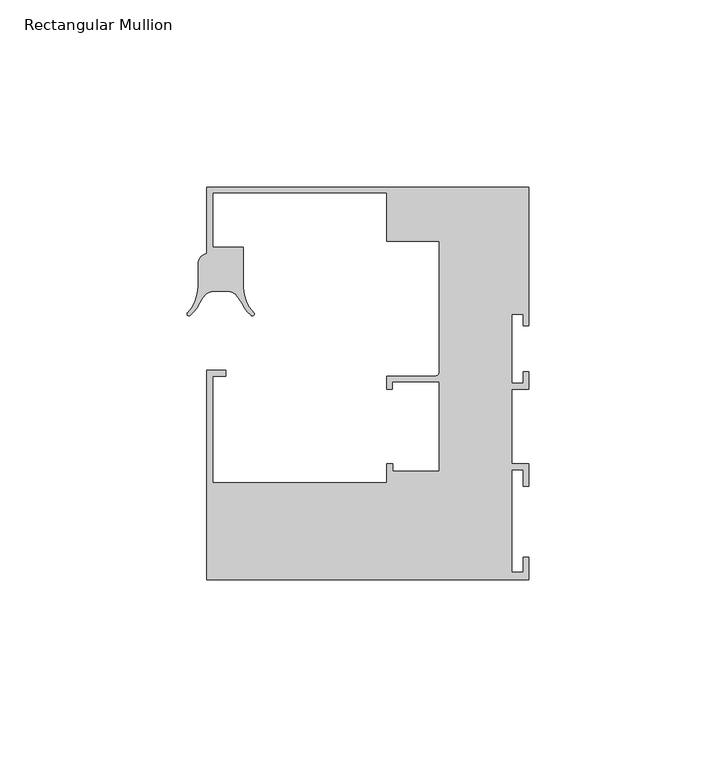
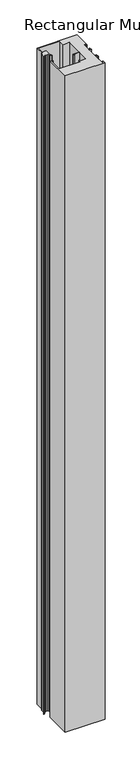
"""IFC4 building model written with IfcOpenShell, lengths in millimetres: member geometry, Rectangular Mullion : Danpal_Airpt_End-Mullion_B1."""

from ifc_helpers import new_model, si_unit, point, frame, frame_2d, origin, place, context, project, spatial, polyline, circle_curve, trimmed, segment, composite_curve, outline, extrude, source, transform, mapped, element, save


def rectangular_mullion_7f4c8c78(model_context):
    return source(origin(), model_context, "Body", "SweptSolid", [
        extrude(outline(composite_curve([segment(polyline([(-84.5, -44.249979), (-38.0, -44.249979), (-38.0, -39.2500001), (-36.4, -39.2500001), (-36.4, -41.2500001), (-23.9180899, -41.2500001), (-23.9180899, -17.2500031), (-36.4180899, -17.2500031), (-36.4180899, -19.2500031), (-38.0180899, -19.2500031), (-38.0180899, -15.7500031), (-24.969716, -15.7500031)]), True, "CONTINUOUS"), segment(trimmed(circle_curve(frame_2d((-24.969716, -14.698377)), 1.0516261), [point((-24.969716, -15.7500031))], [point((-23.9180899, -14.698377))], True, "CARTESIAN"), True, "CONTINUOUS"), segment(polyline([(-23.9180899, -14.698377), (-23.9180899, 20.2499969), (-38.0180899, 20.2499969), (-38.0180899, 33.2499969), (-84.5180945, 33.2499969), (-84.5180945, 18.6499969), (-76.3180945, 18.6499969), (-76.3180945, 7.8643287)]), True, "CONTINUOUS"), segment(trimmed(circle_curve(frame_2d((-66.322244, 8.1523787)), 10.0), [point((-76.3180945, 7.8643287))], [point((-73.5120728, 1.2021009))], True, "CARTESIAN"), True, "CONTINUOUS"), segment(trimmed(circle_curve(frame_2d((-73.8718016, 0.8543575)), 0.5003301), [point((-73.5120728, 1.2021009))], [point((-74.1944462, 0.4719563))], False, "CARTESIAN"), True, "CONTINUOUS"), segment(trimmed(circle_curve(frame_2d((-67.7458114, 8.1149337)), 9.9999997), [point((-74.1944462, 0.4719563))], [point((-76.759944, 3.7853369))], False, "CARTESIAN"), True, "CONTINUOUS"), segment(trimmed(circle_curve(frame_2d((-85.7740768, -0.5442599)), 10.0), [point((-76.759944, 3.7853369))], [point((-77.9898528, 5.7331484))], True, "CARTESIAN"), True, "CONTINUOUS"), segment(trimmed(circle_curve(frame_2d((-80.32512, 3.8499259)), 3.0), [point((-77.9898528, 5.7331484))], [point((-80.32512, 6.8499259))], True, "CARTESIAN"), True, "CONTINUOUS"), segment(polyline([(-80.32512, 6.8499259), (-84.363764, 6.8499259)]), True, "CONTINUOUS"), segment(trimmed(circle_curve(frame_2d((-84.363764, 3.8499259)), 3.0), [point((-84.363764, 6.8499259))], [point((-86.6990305, 5.7331494))], True, "CARTESIAN"), True, "CONTINUOUS"), segment(trimmed(circle_curve(frame_2d((-78.9148092, -0.544262)), 9.9999997), [point((-86.6990305, 5.7331494))], [point((-87.9289412, 3.785336))], True, "CARTESIAN"), True, "CONTINUOUS"), segment(trimmed(circle_curve(frame_2d((-96.9430732, 8.114934)), 9.9999998), [point((-87.9289412, 3.785336))], [point((-90.4970116, 0.4697862))], False, "CARTESIAN"), True, "CONTINUOUS"), segment(trimmed(circle_curve(frame_2d((-90.8194227, 0.8521716)), 0.5001675), [point((-90.4970116, 0.4697862))], [point((-91.1789286, 1.1999114))], False, "CARTESIAN"), True, "CONTINUOUS"), segment(trimmed(circle_curve(frame_2d((-98.3666403, 8.1523787)), 10.0), [point((-91.1789286, 1.1999114))], [point((-88.3666989, 8.1181379))], True, "CARTESIAN"), True, "CONTINUOUS"), segment(polyline([(-88.3666989, 8.1181379), (-88.3666989, 14.1183419)]), True, "CONTINUOUS"), segment(trimmed(circle_curve(frame_2d((-85.366716, 14.1081309)), 3.0000002), [point((-88.3666989, 14.1183419))], [point((-86.0180914, 17.0365625))], False, "CARTESIAN"), True, "CONTINUOUS"), segment(polyline([(-86.0180914, 17.0365625), (-86.0180914, 34.75), (-0.0180922, 34.75), (-0.0180922, -2.25), (-1.5180922, -2.25), (-1.5180922, 0.75), (-4.5180922, 0.75), (-4.5180922, -17.65), (-1.5180922, -17.65), (-1.5180922, -14.65), (-0.0180922, -14.65), (-0.0180922, -19.25), (-4.5, -19.25), (-4.5, -39.2500001), (-0.0180937, -39.2500001), (-0.0180937, -45.2500001), (-1.5180937, -45.2500001), (-1.5180937, -40.7500001), (-4.5, -40.7500001), (-4.5, -68.2500001), (-1.5, -68.2500001), (-1.5, -64.2500001), (0.0, -64.2500001), (0.0, -70.2500001), (-86.0, -70.2500001), (-86.0, -14.2500001), (-81.0, -14.2500001), (-81.0, -15.7500001), (-84.5, -15.7500001), (-84.5, -44.249979)]), True, "CONTINUOUS")], self_intersect=False)), frame((0.0, 0.0, -1500.0), z_axis=(0.0, 0.0, 1.0), x_axis=(1.0, 0.0, 0.0)), (0.0, 0.0, 1.0), 1500.0),
    ])


if __name__ == "__main__":
    model = new_model("IFC4")
    model_context = context("Model", 3, world=origin())
    ifc_project = project(units=[si_unit("LENGTHUNIT", "METRE", prefix="MILLI")], contexts=[model_context])
    site = spatial("IfcSite", under=ifc_project)
    building = spatial("IfcBuilding", under=site)
    placement = place(None, origin())
    rectangular_mullion_shape = rectangular_mullion_7f4c8c78(model_context)
    element("IfcMember", 1, ObjectType="Rectangular Mullion : Danpal_Airpt_End-Mullion_B1", at=placement, inside=building, context=model_context, shape_type="MappedRepresentation", body=[
        mapped(rectangular_mullion_shape, transform((0.0, 0.0, 0.0), x_axis=(1.0, 0.0, 0.0), y_axis=(0.0, 1.0, 0.0), z_axis=(0.0, 0.0, 1.0))),
    ])
    save(model, "model.ifc")
